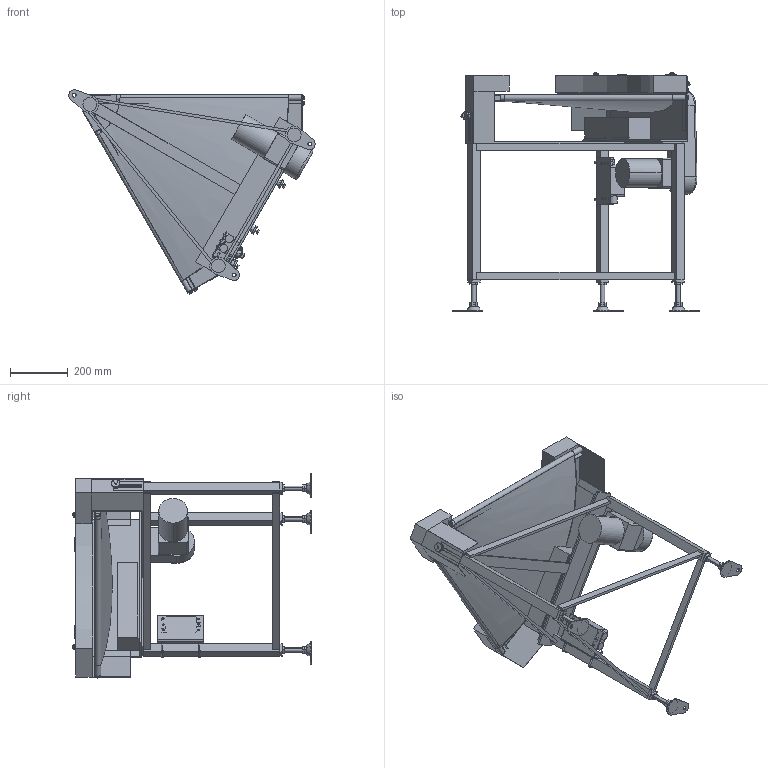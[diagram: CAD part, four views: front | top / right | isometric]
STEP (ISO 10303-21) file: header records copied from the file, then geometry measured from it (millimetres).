
FILE_DESCRIPTION( (''), '2;1');
FILE_NAME ('GFBC-UD-309-500-60°-R-K-60.stp','2025-01-31T10:03:02',(''),(''),'spGate 20.6.2 (****-****-****-****)','','');
FILE_SCHEMA (('AUTOMOTIVE_DESIGN'));
Length unit declared in the file: millimetre
Products named in the file (55): NewModel; TEMP_X_T-prt0; TEMP_X_T-prt1; TEMP_X_T-prt2; TEMP_X_T-prt3; TEMP_X_T-prt4; TEMP_X_T-prt5; TEMP_X_T-prt6; TEMP_X_T-prt7; TEMP_X_T-prt8; TEMP_X_T-prt9; TEMP_X_T-prt10; TEMP_X_T-prt11; TEMP_X_T-prt12; TEMP_X_T-prt13; TEMP_X_T-prt14; TEMP_X_T-prt15; TEMP_X_T-prt16; TEMP_X_T-prt17; TEMP_X_T-prt18; TEMP_X_T-prt19; TEMP_X_T-prt20; TEMP_X_T-prt21; TEMP_X_T-prt22; TEMP_X_T-prt23; TEMP_X_T-prt24; TEMP_X_T-prt25; TEMP_X_T-prt26; TEMP_X_T-prt27; TEMP_X_T-prt28; TEMP_X_T-prt29; TEMP_X_T-prt30; TEMP_X_T-prt31; TEMP_X_T-prt32; TEMP_X_T-prt33; TEMP_X_T-prt34; TEMP_X_T-prt35; TEMP_X_T-prt36; TEMP_X_T-prt37; TEMP_X_T-prt38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
Assembly tree (54 placements, depth 2):
  NewModel
    TEMP_X_T-prt0
    TEMP_X_T-prt1
    TEMP_X_T-prt2
    TEMP_X_T-prt3
    TEMP_X_T-prt4
    TEMP_X_T-prt5
    TEMP_X_T-prt6
    TEMP_X_T-prt7
    TEMP_X_T-prt8
    TEMP_X_T-prt9
    TEMP_X_T-prt10
    TEMP_X_T-prt11
    TEMP_X_T-prt12
    TEMP_X_T-prt13
    TEMP_X_T-prt14
    TEMP_X_T-prt15
    TEMP_X_T-prt16
    TEMP_X_T-prt17
    TEMP_X_T-prt18
    TEMP_X_T-prt19
    TEMP_X_T-prt20
    TEMP_X_T-prt21
    TEMP_X_T-prt22
    TEMP_X_T-prt23
    TEMP_X_T-prt24
    TEMP_X_T-prt25
    TEMP_X_T-prt26
    TEMP_X_T-prt27
    TEMP_X_T-prt28
    TEMP_X_T-prt29
    TEMP_X_T-prt30
    TEMP_X_T-prt31
    TEMP_X_T-prt32
    TEMP_X_T-prt33
    TEMP_X_T-prt34
    TEMP_X_T-prt35
    TEMP_X_T-prt36
    TEMP_X_T-prt37
    TEMP_X_T-prt38
    TEMP_X_T-prt39
    TEMP_X_T-prt40
    TEMP_X_T-prt41
    TEMP_X_T-prt42
    TEMP_X_T-prt43
    TEMP_X_T-prt44
    TEMP_X_T-prt45
    TEMP_X_T-prt46
    TEMP_X_T-prt47
    TEMP_X_T-prt48
    TEMP_X_T-prt49
    TEMP_X_T-prt50
    TEMP_X_T-prt51
    TEMP_X_T-prt52
    TEMP_X_T-prt53
Bounding box: 856.01 x 827.92 x 709.58 mm (x, y, z)
Volume: 17669322.2 mm3; surface area: 3669683 mm2
Topology: 54 solids, 54 shells, 1036 faces, 2391 edges, 1547 vertices
Faces by surface type: plane 656, cylinder 282, bspline 94, sphere 4
Entity records: 54826 total; most frequent: CARTESIAN_POINT 10474, ORIENTED_EDGE 4766, DIRECTION 4727, COLOUR_RGB 3473, PRESENTATION_STYLE_ASSIGNMENT 3473, STYLED_ITEM 3473, EDGE_CURVE 2383, DRAUGHTING_PRE_DEFINED_CURVE_FONT 2383
